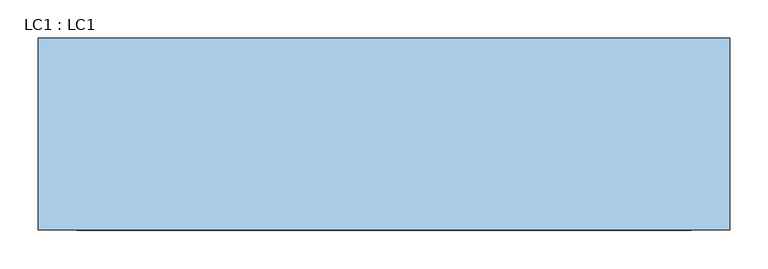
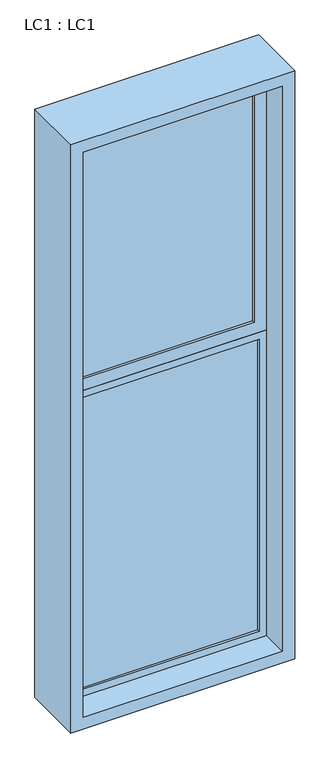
"""IFC4 building model written with IfcOpenShell, lengths in millimetres: window geometry, LC1 : LC1."""

import ifcopenshell
import ifcopenshell.guid

model = None  # the IFC model being written
_history = None  # IfcOwnerHistory: only IFC2X3 demands one
_inside = {}  # id of a spatial element -> (the spatial element, [elements in it])
_under = {}  # id of a project, library or spatial element -> (it, [spatial elements below it])
_declared = {}  # id of a project -> (the project, [libraries it declares])
_typed = {}  # id of a type object -> (the type object, [elements of that type])
_made_of = {}  # id of a material, layer set ... -> (it, [elements and type objects made of it])


def new_model(schema):
    """Start an empty IFC model of exactly this schema.

    Asked for "IFC4X3", IfcOpenShell would pick the latest addendum, in which some entities
    have other attributes; the version numbers below select the first issue.
    IFC2X3 requires an IfcOwnerHistory on every rooted entity: one is made here for all.
    """
    global model, _history
    if schema == "IFC4X3":
        model = ifcopenshell.file(schema_version=(4, 3, 0, 0))
    else:
        model = ifcopenshell.file(schema=schema)
    _inside.clear()
    _under.clear()
    _declared.clear()
    _typed.clear()
    _made_of.clear()
    _history = None
    if model.schema == "IFC2X3":
        org = make("IfcOrganization", Name="unknown")
        user = make(
            "IfcPersonAndOrganization",
            ThePerson=make("IfcPerson", FamilyName="unknown"),
            TheOrganization=org,
        )
        app = make(
            "IfcApplication",
            ApplicationDeveloper=org,
            Version="unknown",
            ApplicationFullName="unknown",
            ApplicationIdentifier="unknown",
        )
        _history = make(
            "IfcOwnerHistory",
            OwningUser=user,
            OwningApplication=app,
            ChangeAction="ADDED",
            CreationDate=0,
        )
    return model


def make(cls, **values):
    """One entity of the class cls with the attributes given. An attribute that is None is left unset."""
    return model.create_entity(
        cls, **{name: value for name, value in values.items() if value is not None}
    )


def rooted(cls, **values):
    """An entity with a GlobalId (a new one), such as an element, a storey or a relation."""
    return make(cls, GlobalId=ifcopenshell.guid.new(), OwnerHistory=_history, **values)


def si_unit(unit_type, name, prefix=None):
    """IfcSIUnit, for example si_unit("LENGTHUNIT", "METRE", prefix="MILLI")."""
    return make("IfcSIUnit", UnitType=unit_type, Prefix=prefix, Name=name)


def assignment(units):
    """IfcUnitAssignment: the units of a project."""
    return None if units is None else make("IfcUnitAssignment", Units=units)


def point(xyz):
    """IfcCartesianPoint."""
    return None if xyz is None else make("IfcCartesianPoint", Coordinates=xyz)


def direction(xyz):
    """IfcDirection."""
    return None if xyz is None else make("IfcDirection", DirectionRatios=xyz)


def frame(location, z_axis=None, x_axis=None):
    """IfcAxis2Placement3D, a coordinate frame: its origin and axes. An axis left out is left unset."""
    return make(
        "IfcAxis2Placement3D",
        Location=point(location),
        Axis=direction(z_axis),
        RefDirection=direction(x_axis),
    )


def origin():
    """The frame at (0, 0, 0) with its axes left unset."""
    return frame((0.0, 0.0, 0.0))


def place(relative_to, where):
    """IfcLocalPlacement: puts the frame where relative to a parent placement (None: the world)."""
    return make(
        "IfcLocalPlacement", PlacementRelTo=relative_to, RelativePlacement=where
    )


def context(
    kind, dimensions, precision=None, world=None, true_north=None, identifier=None
):
    """IfcGeometricRepresentationContext, for example the 3D "Model" context."""
    return make(
        "IfcGeometricRepresentationContext",
        ContextIdentifier=identifier,
        ContextType=kind,
        CoordinateSpaceDimension=dimensions,
        Precision=precision,
        WorldCoordinateSystem=world,
        TrueNorth=true_north,
    )


def project(units=None, contexts=None):
    """IfcProject with its units and contexts."""
    return rooted(
        "IfcProject",
        Name="project",
        RepresentationContexts=contexts,
        UnitsInContext=assignment(units),
    )


def spatial(cls, under=None, at=None, **own):
    """A site, building, storey or space (cls), placed at a placement, below another one or the project."""
    s = rooted(cls, ObjectPlacement=at, **own)
    if under is not None:
        _under.setdefault(under.id(), (under, []))[1].append(s)
    return s


def polyline(points):
    """IfcPolyline through the points."""
    return make("IfcPolyline", Points=[point(p) for p in points])


def outline(outer, holes=None, kind="AREA"):
    """IfcArbitraryClosedProfileDef: a profile drawn as a closed curve; with holes, ...WithVoids."""
    if holes is None:
        return make("IfcArbitraryClosedProfileDef", ProfileType=kind, OuterCurve=outer)
    return make(
        "IfcArbitraryProfileDefWithVoids",
        ProfileType=kind,
        OuterCurve=outer,
        InnerCurves=holes,
    )


def extrude(swept, where, along, depth):
    """IfcExtrudedAreaSolid: the profile swept, set in the frame where, extruded along a direction by depth."""
    return make(
        "IfcExtrudedAreaSolid",
        SweptArea=swept,
        Position=where,
        ExtrudedDirection=direction(along),
        Depth=depth,
    )


def shape(context_of_items, identifier, shape_type, items):
    """IfcShapeRepresentation: the items that make up one representation, for example the "Body"."""
    return make(
        "IfcShapeRepresentation",
        ContextOfItems=context_of_items,
        RepresentationIdentifier=identifier,
        RepresentationType=shape_type,
        Items=items,
    )


def source(mapping_origin, context_of_items, identifier, shape_type, items):
    """IfcRepresentationMap: a shape defined once, which mapped items show again and again."""
    return make(
        "IfcRepresentationMap",
        MappingOrigin=mapping_origin,
        MappedRepresentation=shape(context_of_items, identifier, shape_type, items),
    )


def transform(
    local_origin,
    x_axis=None,
    y_axis=None,
    z_axis=None,
    scale=None,
    scale2=None,
    scale3=None,
    uniform=True,
):
    """IfcCartesianTransformationOperator3D, or its non-uniform kind. x_axis, y_axis, z_axis: its Axis1, 2, 3."""
    if uniform:
        return make(
            "IfcCartesianTransformationOperator3D",
            Axis1=direction(x_axis),
            Axis2=direction(y_axis),
            LocalOrigin=point(local_origin),
            Scale=scale,
            Axis3=direction(z_axis),
        )
    return make(
        "IfcCartesianTransformationOperator3DnonUniform",
        Axis1=direction(x_axis),
        Axis2=direction(y_axis),
        LocalOrigin=point(local_origin),
        Scale=scale,
        Axis3=direction(z_axis),
        Scale2=scale2,
        Scale3=scale3,
    )


def mapped(mapping_source, mapping_target):
    """IfcMappedItem: shows the shape of a source again, moved by a transform."""
    return make(
        "IfcMappedItem", MappingSource=mapping_source, MappingTarget=mapping_target
    )


def made_of(thing, what):
    """Note that an element or type object is made of a material, layer set ...; save() writes the relation."""
    if what is not None:
        _made_of.setdefault(what.id(), (what, []))[1].append(thing)
    return thing


def element(
    cls,
    number,
    at=None,
    inside=None,
    cuts=None,
    type_object=None,
    material=None,
    context=None,
    identifier="Body",
    shape_type=None,
    held_by="IfcProductDefinitionShape",
    body=None,
    shapes=None,
    **own,
):
    """One element of the class cls, such as IfcWall. Its Tag is "e" and its number.

    at: its placement. inside: the storey or other place that contains it. cuts: it is an
    opening in that element (IfcRelVoidsElement). A single representation is given by context,
    identifier, shape_type and body (its items); several are given by shapes. held_by: the class
    of the entity that holds the representations. save() writes the other relations.
    """
    e = rooted(cls, Tag="e%d" % number, ObjectPlacement=at, **own)
    if body is not None:
        shapes = [shape(context, identifier, shape_type, body)]
    if shapes is not None:
        e.Representation = make(held_by, Representations=shapes)
    if inside is not None:
        _inside.setdefault(inside.id(), (inside, []))[1].append(e)
    if cuts is not None:
        rooted(
            "IfcRelVoidsElement", RelatingBuildingElement=cuts, RelatedOpeningElement=e
        )
    if type_object is not None:
        _typed.setdefault(type_object.id(), (type_object, []))[1].append(e)
    return made_of(e, material)


def aggregate(whole, parts):
    """IfcRelAggregates: a whole, such as a stair, and the parts it consists of."""
    return rooted("IfcRelAggregates", RelatingObject=whole, RelatedObjects=parts)


def save(model, path):
    """Write the relations noted so far, then the file.

    IfcRelAggregates (storeys below a building ...), IfcRelContainedInSpatialStructure (elements
    in a storey), IfcRelDefinesByType, IfcRelAssociatesMaterial and IfcRelDeclares: one each for
    every whole, place, type object, material and project.
    """
    for whole, parts in _under.values():
        aggregate(whole, parts)
    for where, things in _inside.values():
        rooted(
            "IfcRelContainedInSpatialStructure",
            RelatedElements=things,
            RelatingStructure=where,
        )
    for kind, things in _typed.values():
        rooted("IfcRelDefinesByType", RelatedObjects=things, RelatingType=kind)
    for what, things in _made_of.values():
        rooted("IfcRelAssociatesMaterial", RelatedObjects=things, RelatingMaterial=what)
    for by, libraries in _declared.values():
        rooted("IfcRelDeclares", RelatingContext=by, RelatedDefinitions=libraries)
    model.write(path)


def lc1_lc1_25eb0bf8(model_context):
    return source(origin(), model_context, "Body", "SweptSolid", [
        extrude(outline(polyline([(3400.0, 450.0), (3400.0, -450.0), (900.0, -450.0), (900.0, 450.0), (3400.0, 450.0)]), holes=[polyline([(3350.0, 400.0), (950.0, 400.0), (950.0, -400.0), (3350.0, -400.0), (3350.0, 400.0)])]), frame((0.0, -125.0, 0.0), z_axis=(0.0, 1.0, 0.0), x_axis=(0.0, 0.0, 1.0)), (0.0, 0.0, 1.0), 250.0),
        extrude(outline(polyline([(350.0, -5.2868922), (-350.0, -5.2868922), (-350.0, 4.7131078), (350.0, 4.7131078), (350.0, -5.2868922)])), frame((0.0, 0.0, 2300.0), z_axis=(0.0, 0.0, 1.0), x_axis=(1.0, 0.0, 0.0)), (0.0, 0.0, 1.0), 1000.0),
        extrude(outline(polyline([(370.0, -5.2868922), (-370.0, -5.2868922), (-370.0, 4.7131078), (370.0, 4.7131078), (370.0, -5.2868922)])), frame((0.0, 0.0, 980.0), z_axis=(0.0, 0.0, 1.0), x_axis=(1.0, 0.0, 0.0)), (0.0, 0.0, 1.0), 1240.0),
        extrude(outline(polyline([(3350.0, 400.0), (3350.0, -400.0), (2250.0, -400.0), (2250.0, 400.0), (3350.0, 400.0)]), holes=[polyline([(3300.0, 350.0), (2300.0, 350.0), (2300.0, -350.0), (3300.0, -350.0), (3300.0, 350.0)])]), frame((0.0, -15.0, 0.0), z_axis=(0.0, 1.0, 0.0), x_axis=(0.0, 0.0, 1.0)), (0.0, 0.0, 1.0), 30.0),
        extrude(outline(polyline([(2250.0, 400.0), (2250.0, -400.0), (950.0, -400.0), (950.0, 400.0), (2250.0, 400.0)]), holes=[polyline([(2220.0, 370.0), (980.0, 370.0), (980.0, -370.0), (2220.0, -370.0), (2220.0, 370.0)])]), frame((0.0, -15.0, 0.0), z_axis=(0.0, 1.0, 0.0), x_axis=(0.0, 0.0, 1.0)), (0.0, 0.0, 1.0), 30.0),
    ])


if __name__ == "__main__":
    model = new_model("IFC4")
    model_context = context("Model", 3, world=origin())
    ifc_project = project(units=[si_unit("LENGTHUNIT", "METRE", prefix="MILLI")], contexts=[model_context])
    site = spatial("IfcSite", under=ifc_project)
    building = spatial("IfcBuilding", under=site)
    placement = place(None, origin())
    lc1_lc1_shape = lc1_lc1_25eb0bf8(model_context)
    element("IfcWindow", 1, ObjectType="LC1 : LC1", at=placement, inside=building, context=model_context, shape_type="MappedRepresentation", body=[
        mapped(lc1_lc1_shape, transform((0.0, 0.0, 0.0), x_axis=(1.0, 0.0, 0.0), y_axis=(0.0, 1.0, 0.0), z_axis=(0.0, 0.0, 1.0))),
    ])
    save(model, "model.ifc")
